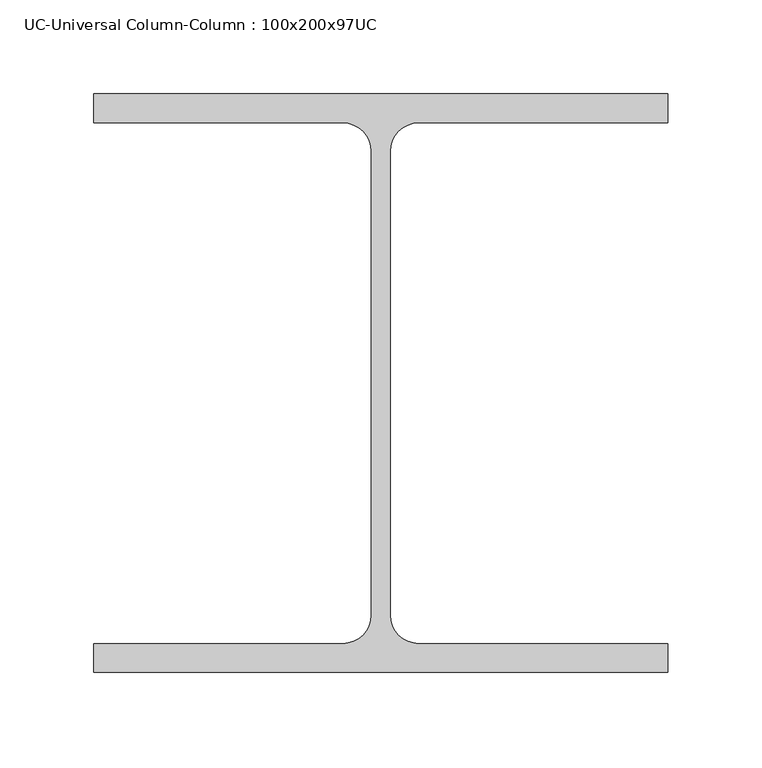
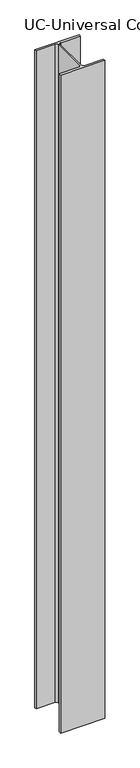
"""IFC4 building model written with IfcOpenShell, lengths in millimetres: column geometry, UC-Universal Column-Column : 100x200x97UC."""

from ifc_helpers import new_model, si_unit, point, frame_2d, origin, origin_with_axes, place, context, project, spatial, polyline, circle_curve, trimmed, segment, composite_curve, outline, extrude, source, transform, mapped, element, save


def uc_universal_column_column_100x200x97uc_f167816f(model_context):
    return source(origin(), model_context, "Body", "SweptSolid", [
        extrude(outline(composite_curve([segment(polyline([(152.65, 153.95), (152.65, 138.55), (20.15, 138.55)]), True, "CONTINUOUS"), segment(trimmed(circle_curve(frame_2d((20.15, 123.35)), 15.2), [point((20.15, 138.55))], [point((4.95, 123.35))], True, "CARTESIAN"), True, "CONTINUOUS"), segment(polyline([(4.95, 123.35), (4.95, -123.35)]), True, "CONTINUOUS"), segment(trimmed(circle_curve(frame_2d((20.15, -123.35)), 15.2), [point((4.95, -123.35))], [point((20.15, -138.55))], True, "CARTESIAN"), True, "CONTINUOUS"), segment(polyline([(20.15, -138.55), (152.65, -138.55), (152.65, -153.95), (-152.65, -153.95), (-152.65, -138.55), (-20.15, -138.55)]), True, "CONTINUOUS"), segment(trimmed(circle_curve(frame_2d((-20.15, -123.35)), 15.2), [point((-20.15, -138.55))], [point((-4.95, -123.35))], True, "CARTESIAN"), True, "CONTINUOUS"), segment(polyline([(-4.95, -123.35), (-4.95, 123.35)]), True, "CONTINUOUS"), segment(trimmed(circle_curve(frame_2d((-20.15, 123.35)), 15.2), [point((-4.95, 123.35))], [point((-20.15, 138.55))], True, "CARTESIAN"), True, "CONTINUOUS"), segment(polyline([(-20.15, 138.55), (-152.65, 138.55), (-152.65, 153.95), (152.65, 153.95)]), True, "CONTINUOUS")], self_intersect=False)), origin_with_axes(), (0.0, 0.0, 1.0), 4810.0),
    ])


if __name__ == "__main__":
    model = new_model("IFC4")
    model_context = context("Model", 3, world=origin())
    ifc_project = project(units=[si_unit("LENGTHUNIT", "METRE", prefix="MILLI")], contexts=[model_context])
    site = spatial("IfcSite", under=ifc_project)
    building = spatial("IfcBuilding", under=site)
    placement = place(None, origin())
    uc_universal_column_column_100x200x97uc_shape = uc_universal_column_column_100x200x97uc_f167816f(model_context)
    element("IfcColumn", 1, ObjectType="UC-Universal Column-Column : 100x200x97UC", at=placement, inside=building, context=model_context, shape_type="MappedRepresentation", body=[
        mapped(uc_universal_column_column_100x200x97uc_shape, transform((0.0, 0.0, 0.0), x_axis=(1.0, 0.0, 0.0), y_axis=(0.0, 1.0, 0.0), z_axis=(0.0, 0.0, 1.0))),
    ])
    save(model, "model.ifc")
